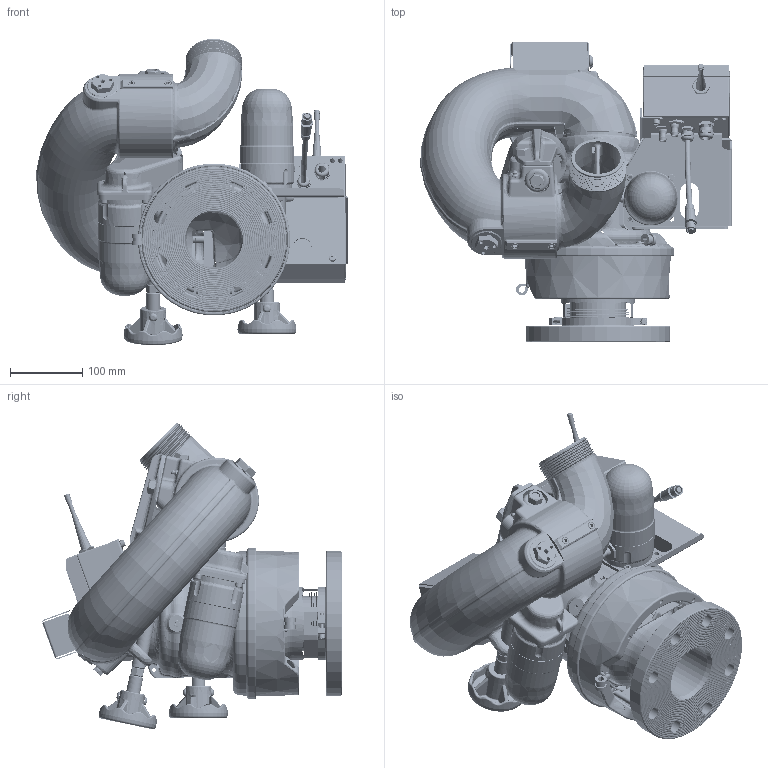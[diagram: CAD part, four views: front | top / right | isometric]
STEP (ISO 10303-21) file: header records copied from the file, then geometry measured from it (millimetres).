
FILE_DESCRIPTION (( 'STEP AP203' ), '1' );
FILE_NAME ('XFIH-E41A_45_Up.STEP', '2014-11-17T17:39:25', ( '' ), ( '' ), 'SwSTEP 2.0', 'SolidWorks 2014', '' );
FILE_SCHEMA (( 'CONFIG_CONTROL_DESIGN' ));
Length unit declared in the file: inch
Products named in the file (1): XFIH-E41A_45_Up
Bounding box: 429.5 x 413.45 x 422.55 mm (x, y, z)
Surface area: 1129321.4 mm2 (no closed solid volume)
Topology: 0 solids, 269 shells, 3177 faces, 14407 edges, 11245 vertices
Faces by surface type: plane 956, cylinder 721, bspline 656, torus 497, cone 300, sphere 47
Entity records: 215033 total; most frequent: CARTESIAN_POINT 110248, ORIENTED_EDGE 20440, DIRECTION 18776, EDGE_CURVE 14359, VERTEX_POINT 11231, VECTOR 6318, LINE 6318, AXIS2_PLACEMENT_3D 6229
